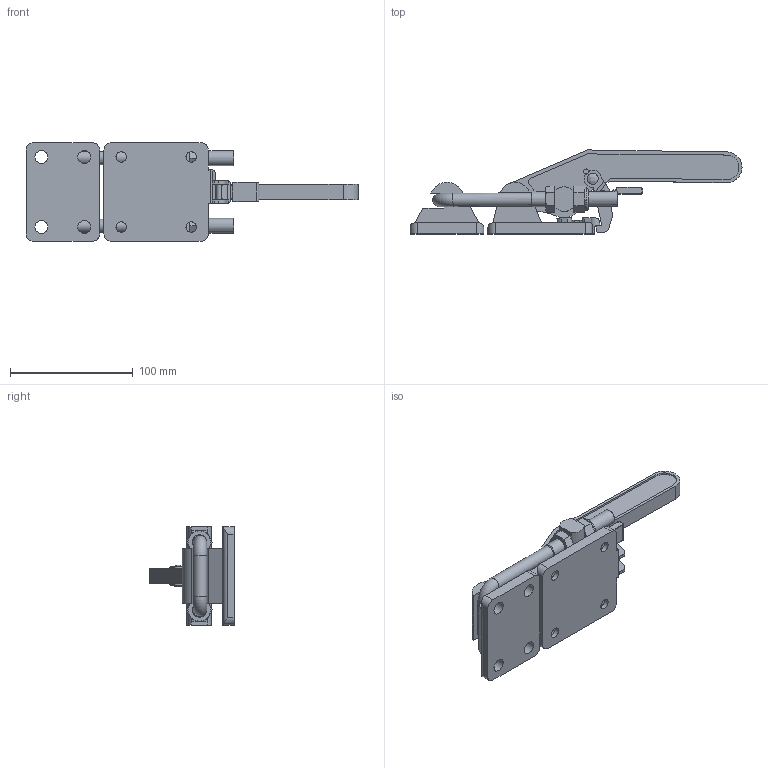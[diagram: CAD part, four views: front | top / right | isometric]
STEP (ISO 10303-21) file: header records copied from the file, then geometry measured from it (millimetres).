
FILE_DESCRIPTION (( 'STEP AP214' ), '1' );
FILE_NAME ('852.3-4000-T6-NI.step', '2022-01-28T10:01:29', ( '' ), ( '' ), 'SwSTEP 2.0', 'SolidWorks 2019', '' );
FILE_SCHEMA (( 'AUTOMOTIVE_DESIGN' ));
Length unit declared in the file: millimetre
Products named in the file (7): 4000_T6(112) -33^WB852.3-4000_mit; 4000_T6-2^WB852.3-4000_NI; 4000_T6-4^WB852.3-4000_NI; 852.3-4000-T6-NI; WB951.2_Zugbügel^WB852.3-4000_M12-55-151; 4000_T6-1^WB852.3-4000_NI; 4000_T6-5^WB852.3-4000
Assembly tree (6 placements, depth 2):
  852.3-4000-T6-NI
    4000_T6-1^WB852.3-4000_NI
    4000_T6-4^WB852.3-4000_NI
    4000_T6(112) -33^WB852.3-4000_mit
    4000_T6-5^WB852.3-4000
    4000_T6-2^WB852.3-4000_NI
    WB951.2_Zugbügel^WB852.3-4000_M12-55-151
Bounding box: 270.33 x 68.43 x 80 mm (x, y, z)
Volume: 282781.8 mm3; surface area: 85342.4 mm2
Topology: 6 solids, 6 shells, 377 faces, 946 edges, 590 vertices
Faces by surface type: plane 176, cylinder 125, cone 53, bspline 9, torus 8, sphere 6
Full cylindrical faces by diameter (mm): 4 x3, 6 x1, 8 x1, 8.5 x5, 10.106 x2, 10.5 x4, 10.8 x3, 12 x4, 17 x4, 18.2 x2, 20 x2
Entity records: 12427 total; most frequent: CARTESIAN_POINT 2820, DIRECTION 1823, ORIENTED_EDGE 1780, EDGE_CURVE 890, AXIS2_PLACEMENT_3D 693, VERTEX_POINT 579, EDGE_LOOP 463, VECTOR 437
